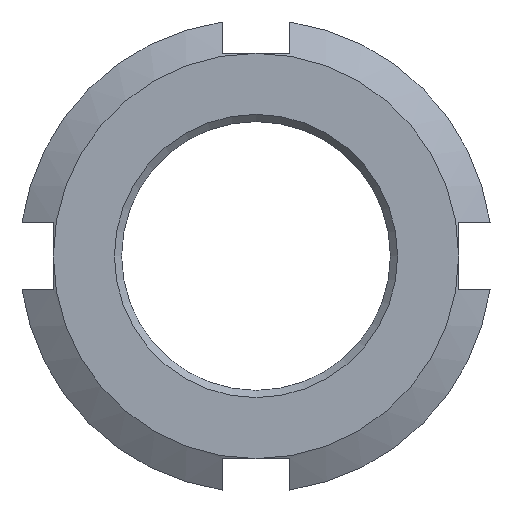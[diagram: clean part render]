
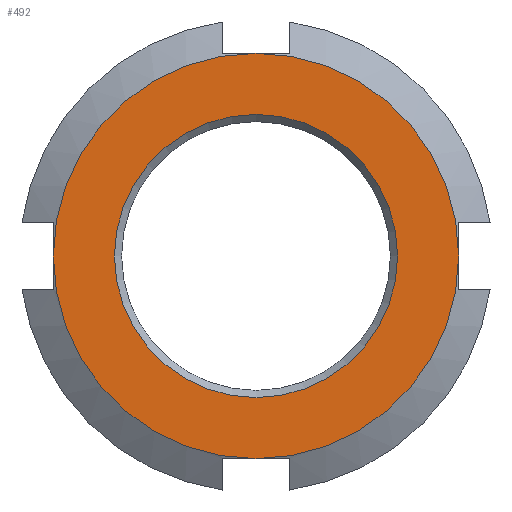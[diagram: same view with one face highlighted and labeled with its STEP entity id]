
A CAD part, left-side view. The second image highlights one B-rep face of the part: STEP entity #492.
In plain terms, the highlighted planar face has unit normal (-1, 0, 0).
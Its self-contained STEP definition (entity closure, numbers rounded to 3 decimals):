
#43=FACE_BOUND('',#96,.T.);
#45=PLANE('',#548);
#66=FACE_OUTER_BOUND('',#95,.T.);
#95=EDGE_LOOP('',(#342,#343,#344,#345));
#96=EDGE_LOOP('',(#346));
#186=CIRCLE('',#543,8.384);
#190=CIRCLE('',#549,12.);
#191=CIRCLE('',#550,12.);
#192=CIRCLE('',#551,12.);
#193=CIRCLE('',#552,12.);
#207=VERTEX_POINT('',#727);
#211=VERTEX_POINT('',#739);
#212=VERTEX_POINT('',#740);
#213=VERTEX_POINT('',#742);
#214=VERTEX_POINT('',#744);
#256=EDGE_CURVE('',#207,#207,#186,.T.);
#262=EDGE_CURVE('',#211,#212,#190,.T.);
#263=EDGE_CURVE('',#213,#211,#191,.T.);
#264=EDGE_CURVE('',#214,#213,#192,.T.);
#265=EDGE_CURVE('',#212,#214,#193,.T.);
#342=ORIENTED_EDGE('',*,*,#262,.F.);
#343=ORIENTED_EDGE('',*,*,#263,.F.);
#344=ORIENTED_EDGE('',*,*,#264,.F.);
#345=ORIENTED_EDGE('',*,*,#265,.F.);
#346=ORIENTED_EDGE('',*,*,#256,.F.);
#492=ADVANCED_FACE('',(#66,#43),#45,.T.);
#543=AXIS2_PLACEMENT_3D('',#728,#596,#597);
#548=AXIS2_PLACEMENT_3D('',#738,#608,#609);
#549=AXIS2_PLACEMENT_3D('',#741,#610,#611);
#550=AXIS2_PLACEMENT_3D('',#743,#612,#613);
#551=AXIS2_PLACEMENT_3D('',#745,#614,#615);
#552=AXIS2_PLACEMENT_3D('',#746,#616,#617);
#596=DIRECTION('center_axis',(-1.,0.,0.));
#597=DIRECTION('ref_axis',(0.,0.,-1.));
#608=DIRECTION('center_axis',(-1.,0.,0.));
#609=DIRECTION('ref_axis',(0.,0.,1.));
#610=DIRECTION('center_axis',(1.,0.,0.));
#611=DIRECTION('ref_axis',(0.,-1.,0.));
#612=DIRECTION('center_axis',(1.,0.,0.));
#613=DIRECTION('ref_axis',(0.,-1.,0.));
#614=DIRECTION('center_axis',(1.,0.,0.));
#615=DIRECTION('ref_axis',(0.,-1.,0.));
#616=DIRECTION('center_axis',(1.,0.,0.));
#617=DIRECTION('ref_axis',(0.,-1.,0.));
#727=CARTESIAN_POINT('',(0.,0.,8.384));
#728=CARTESIAN_POINT('Origin',(0.,0.,0.));
#738=CARTESIAN_POINT('Origin',(0.,7.,0.));
#739=CARTESIAN_POINT('',(0.,12.,0.));
#740=CARTESIAN_POINT('',(0.,0.,12.));
#741=CARTESIAN_POINT('Origin',(0.,0.,0.));
#742=CARTESIAN_POINT('',(0.,0.,-12.));
#743=CARTESIAN_POINT('Origin',(0.,0.,0.));
#744=CARTESIAN_POINT('',(0.,-12.,0.));
#745=CARTESIAN_POINT('Origin',(0.,0.,0.));
#746=CARTESIAN_POINT('Origin',(0.,0.,0.));
